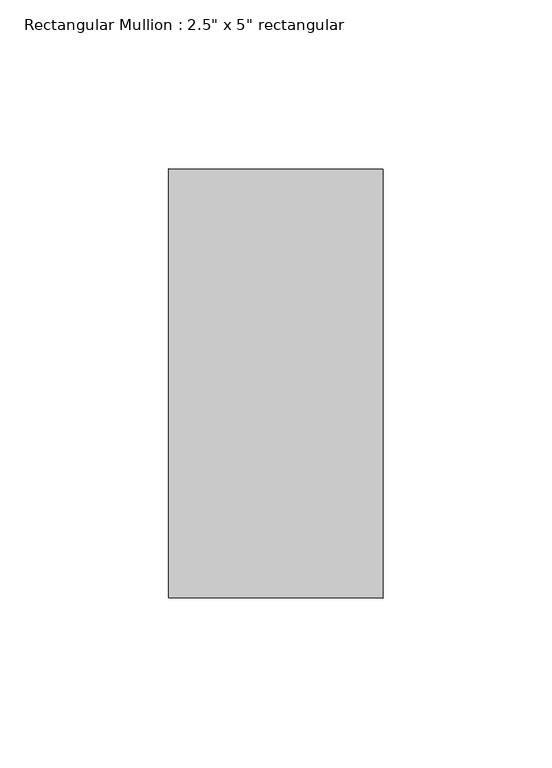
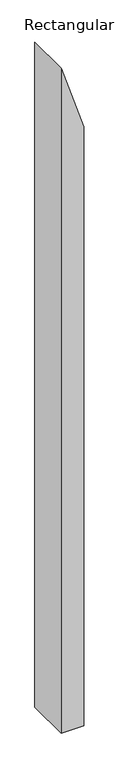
"""IFC4 building model written with IfcOpenShell, lengths in millimetres: member geometry."""

from ifc_helpers import new_model, si_unit, frame, origin, place, context, project, spatial, polyline, outline, extrude, source, transform, mapped, element, save


def member_776f6fe3(model_context):
    return source(origin(), model_context, "Body", "SweptSolid", [
        extrude(outline(polyline([(-302.3843636, 31.75), (-107.5182737, -31.75), (-2074.125003, -31.75), (-2074.125003, 31.75), (-302.3843636, 31.75)])), frame((0.0, -63.5, 0.0), z_axis=(0.0, 1.0, 0.0), x_axis=(0.0, 0.0, 1.0)), (0.0, 0.0, 1.0), 127.0),
    ])


if __name__ == "__main__":
    model = new_model("IFC4")
    model_context = context("Model", 3, world=origin())
    ifc_project = project(units=[si_unit("LENGTHUNIT", "METRE", prefix="MILLI")], contexts=[model_context])
    site = spatial("IfcSite", under=ifc_project)
    building = spatial("IfcBuilding", under=site)
    placement = place(None, origin())
    member_shape = member_776f6fe3(model_context)
    element("IfcMember", 1, ObjectType="Rectangular Mullion : 2.5\" x 5\" rectangular", at=placement, inside=building, context=model_context, shape_type="MappedRepresentation", body=[
        mapped(member_shape, transform((0.0, 0.0, 0.0), x_axis=(1.0, 0.0, 0.0), y_axis=(0.0, 1.0, 0.0), z_axis=(0.0, 0.0, 1.0))),
    ])
    save(model, "model.ifc")
